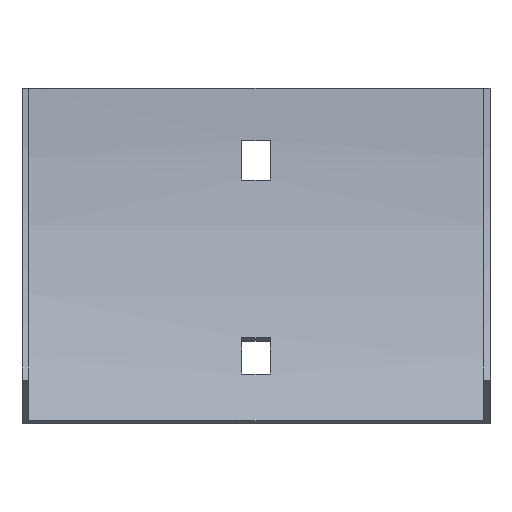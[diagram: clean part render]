
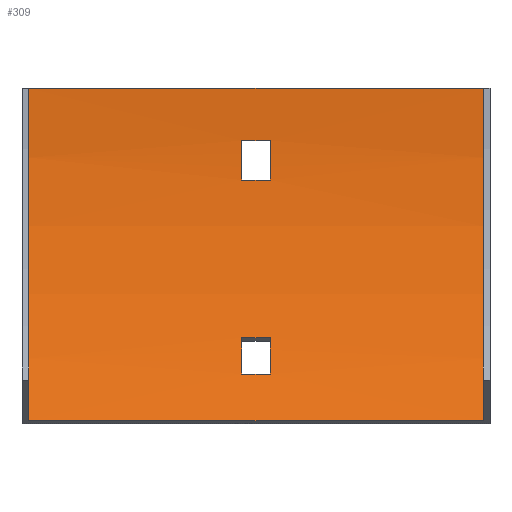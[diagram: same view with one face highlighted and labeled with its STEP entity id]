
A CAD part, front view. The second image highlights one B-rep face of the part: STEP entity #309.
In plain terms, the highlighted cylindrical face has radius 152 mm (diameter 304 mm), a partial arc.
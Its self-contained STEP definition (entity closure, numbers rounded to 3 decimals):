
#7 = CARTESIAN_POINT ( 'NONE',  ( 3.25, -153.5, 0. ) ) ;
#16 = VERTEX_POINT ( 'NONE', #357 ) ;
#20 = CARTESIAN_POINT ( 'NONE',  ( -3.25, -153.5, 0. ) ) ;
#21 = VECTOR ( 'NONE', #98, 1000. ) ;
#22 = DIRECTION ( 'NONE',  ( -1., 0., 0. ) ) ;
#23 = VERTEX_POINT ( 'NONE', #85 ) ;
#53 = CARTESIAN_POINT ( 'NONE',  ( 52., -153.5, 0. ) ) ;
#55 = CARTESIAN_POINT ( 'NONE',  ( 3.25, -12.626, -57.085 ) ) ;
#60 = ORIENTED_EDGE ( 'NONE', *, *, #388, .T. ) ;
#62 = DIRECTION ( 'NONE',  ( 0., 0., -1. ) ) ;
#66 = CARTESIAN_POINT ( 'NONE',  ( -3.25, -153.5, 0. ) ) ;
#76 = ORIENTED_EDGE ( 'NONE', *, *, #400, .F. ) ;
#77 = VERTEX_POINT ( 'NONE', #201 ) ;
#85 = CARTESIAN_POINT ( 'NONE',  ( -52., -1.5, 0. ) ) ;
#91 = VERTEX_POINT ( 'NONE', #55 ) ;
#98 = DIRECTION ( 'NONE',  ( 1., 0., 0. ) ) ;
#108 = CARTESIAN_POINT ( 'NONE',  ( -3.25, -12.626, -57.085 ) ) ;
#114 = CARTESIAN_POINT ( 'NONE',  ( 53.5, -16.275, -65.37 ) ) ;
#120 = CARTESIAN_POINT ( 'NONE',  ( 3.25, -2.958, -21. ) ) ;
#121 = LINE ( 'NONE', #594, #212 ) ;
#125 = CARTESIAN_POINT ( 'NONE',  ( 52., -1.5, 0. ) ) ;
#129 = EDGE_CURVE ( 'NONE', #471, #77, #218, .T. ) ;
#130 = VERTEX_POINT ( 'NONE', #403 ) ;
#141 = VECTOR ( 'NONE', #597, 1000. ) ;
#144 = FACE_OUTER_BOUND ( 'NONE', #396, .T. ) ;
#145 = CARTESIAN_POINT ( 'NONE',  ( 3.25, -153.5, 0. ) ) ;
#149 = DIRECTION ( 'NONE',  ( 0., 0., 1. ) ) ;
#152 = CIRCLE ( 'NONE', #266, 152. ) ;
#158 = DIRECTION ( 'NONE',  ( 0., 0., 1. ) ) ;
#161 = CARTESIAN_POINT ( 'NONE',  ( 3.25, -1.974, -12. ) ) ;
#188 = ORIENTED_EDGE ( 'NONE', *, *, #320, .T. ) ;
#193 = DIRECTION ( 'NONE',  ( 1., 0., 0. ) ) ;
#201 = CARTESIAN_POINT ( 'NONE',  ( -3.25, -1.974, -12. ) ) ;
#209 = DIRECTION ( 'NONE',  ( -1., 0., 0. ) ) ;
#212 = VECTOR ( 'NONE', #449, 1000. ) ;
#213 = LINE ( 'NONE', #398, #141 ) ;
#218 = LINE ( 'NONE', #263, #603 ) ;
#224 = EDGE_CURVE ( 'NONE', #498, #23, #260, .T. ) ;
#229 = AXIS2_PLACEMENT_3D ( 'NONE', #20, #485, #62 ) ;
#230 = CARTESIAN_POINT ( 'NONE',  ( -52., -21.864, -76. ) ) ;
#239 = DIRECTION ( 'NONE',  ( 0., 0., 1. ) ) ;
#255 = AXIS2_PLACEMENT_3D ( 'NONE', #53, #373, #376 ) ;
#260 = LINE ( 'NONE', #456, #530 ) ;
#263 = CARTESIAN_POINT ( 'NONE',  ( 53.5, -1.974, -12. ) ) ;
#264 = EDGE_CURVE ( 'NONE', #91, #130, #338, .T. ) ;
#266 = AXIS2_PLACEMENT_3D ( 'NONE', #145, #193, #283 ) ;
#268 = CIRCLE ( 'NONE', #542, 152. ) ;
#270 = EDGE_CURVE ( 'NONE', #557, #471, #152, .T. ) ;
#279 = ORIENTED_EDGE ( 'NONE', *, *, #270, .F. ) ;
#283 = DIRECTION ( 'NONE',  ( 0., 0., -1. ) ) ;
#288 = EDGE_CURVE ( 'NONE', #324, #498, #354, .T. ) ;
#289 = DIRECTION ( 'NONE',  ( -1., 0., 0. ) ) ;
#290 = ORIENTED_EDGE ( 'NONE', *, *, #407, .F. ) ;
#291 = CARTESIAN_POINT ( 'NONE',  ( -3.25, -2.958, -21. ) ) ;
#297 = DIRECTION ( 'NONE',  ( 0., 0., 1. ) ) ;
#300 = AXIS2_PLACEMENT_3D ( 'NONE', #7, #289, #149 ) ;
#303 = CARTESIAN_POINT ( 'NONE',  ( -52., -153.5, 0. ) ) ;
#309 = ADVANCED_FACE ( 'NONE', ( #470, #144, #370 ), #383, .F. ) ;
#320 = EDGE_CURVE ( 'NONE', #351, #91, #524, .T. ) ;
#324 = VERTEX_POINT ( 'NONE', #332 ) ;
#330 = CARTESIAN_POINT ( 'NONE',  ( 53.5, -153.5, 0. ) ) ;
#332 = CARTESIAN_POINT ( 'NONE',  ( 52., -21.864, -76. ) ) ;
#338 = CIRCLE ( 'NONE', #300, 152. ) ;
#349 = EDGE_LOOP ( 'NONE', ( #445, #401, #279, #384 ) ) ;
#351 = VERTEX_POINT ( 'NONE', #108 ) ;
#354 = CIRCLE ( 'NONE', #255, 152. ) ;
#357 = CARTESIAN_POINT ( 'NONE',  ( -3.25, -16.275, -65.37 ) ) ;
#358 = ORIENTED_EDGE ( 'NONE', *, *, #288, .T. ) ;
#363 = CIRCLE ( 'NONE', #229, 152. ) ;
#370 = FACE_BOUND ( 'NONE', #406, .T. ) ;
#373 = DIRECTION ( 'NONE',  ( 1., 0., 0. ) ) ;
#376 = DIRECTION ( 'NONE',  ( 0., 0., 1. ) ) ;
#383 = CYLINDRICAL_SURFACE ( 'NONE', #551, 152. ) ;
#384 = ORIENTED_EDGE ( 'NONE', *, *, #438, .F. ) ;
#385 = AXIS2_PLACEMENT_3D ( 'NONE', #303, #584, #158 ) ;
#388 = EDGE_CURVE ( 'NONE', #130, #16, #392, .T. ) ;
#392 = LINE ( 'NONE', #114, #480 ) ;
#396 = EDGE_LOOP ( 'NONE', ( #290, #76, #358, #601 ) ) ;
#398 = CARTESIAN_POINT ( 'NONE',  ( 53.5, -2.958, -21. ) ) ;
#400 = EDGE_CURVE ( 'NONE', #324, #567, #121, .T. ) ;
#401 = ORIENTED_EDGE ( 'NONE', *, *, #129, .F. ) ;
#403 = CARTESIAN_POINT ( 'NONE',  ( 3.25, -16.275, -65.37 ) ) ;
#406 = EDGE_LOOP ( 'NONE', ( #60, #572, #188, #412 ) ) ;
#407 = EDGE_CURVE ( 'NONE', #567, #23, #479, .T. ) ;
#412 = ORIENTED_EDGE ( 'NONE', *, *, #264, .T. ) ;
#425 = EDGE_CURVE ( 'NONE', #77, #574, #268, .T. ) ;
#426 = DIRECTION ( 'NONE',  ( -1., 0., 0. ) ) ;
#438 = EDGE_CURVE ( 'NONE', #574, #557, #213, .T. ) ;
#445 = ORIENTED_EDGE ( 'NONE', *, *, #425, .F. ) ;
#449 = DIRECTION ( 'NONE',  ( -1., 0., 0. ) ) ;
#456 = CARTESIAN_POINT ( 'NONE',  ( 52., -1.5, 0. ) ) ;
#460 = DIRECTION ( 'NONE',  ( -1., 0., 0. ) ) ;
#470 = FACE_BOUND ( 'NONE', #349, .T. ) ;
#471 = VERTEX_POINT ( 'NONE', #161 ) ;
#472 = CARTESIAN_POINT ( 'NONE',  ( 53.5, -12.626, -57.085 ) ) ;
#479 = CIRCLE ( 'NONE', #385, 152. ) ;
#480 = VECTOR ( 'NONE', #209, 1000. ) ;
#485 = DIRECTION ( 'NONE',  ( 1., 0., 0. ) ) ;
#498 = VERTEX_POINT ( 'NONE', #125 ) ;
#523 = EDGE_CURVE ( 'NONE', #16, #351, #363, .T. ) ;
#524 = LINE ( 'NONE', #472, #21 ) ;
#530 = VECTOR ( 'NONE', #426, 1000. ) ;
#542 = AXIS2_PLACEMENT_3D ( 'NONE', #66, #22, #297 ) ;
#551 = AXIS2_PLACEMENT_3D ( 'NONE', #330, #566, #239 ) ;
#557 = VERTEX_POINT ( 'NONE', #120 ) ;
#566 = DIRECTION ( 'NONE',  ( -1., 0., 0. ) ) ;
#567 = VERTEX_POINT ( 'NONE', #230 ) ;
#572 = ORIENTED_EDGE ( 'NONE', *, *, #523, .T. ) ;
#574 = VERTEX_POINT ( 'NONE', #291 ) ;
#584 = DIRECTION ( 'NONE',  ( 1., 0., 0. ) ) ;
#594 = CARTESIAN_POINT ( 'NONE',  ( 52., -21.864, -76. ) ) ;
#597 = DIRECTION ( 'NONE',  ( 1., 0., 0. ) ) ;
#601 = ORIENTED_EDGE ( 'NONE', *, *, #224, .T. ) ;
#603 = VECTOR ( 'NONE', #460, 1000. ) ;
